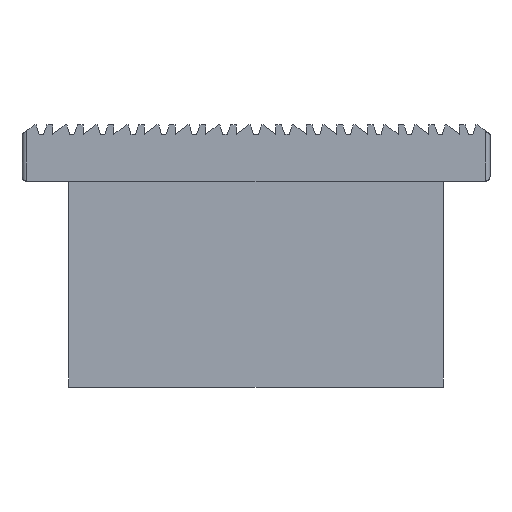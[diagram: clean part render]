
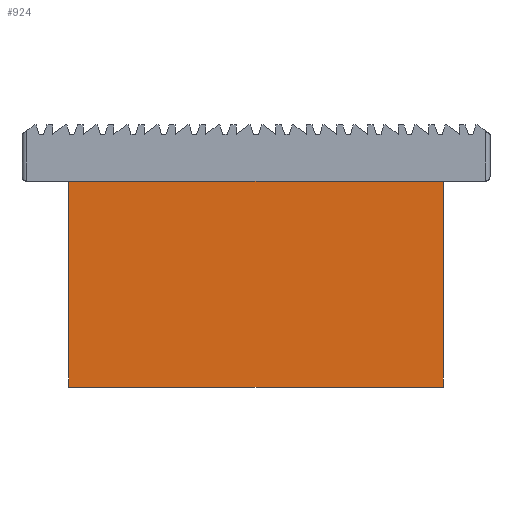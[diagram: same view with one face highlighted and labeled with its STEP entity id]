
A CAD part, front view. The second image highlights one B-rep face of the part: STEP entity #924.
In plain terms, the highlighted planar face has unit normal (0, -1, 0).
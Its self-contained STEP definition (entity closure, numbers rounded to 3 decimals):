
#846 = EDGE_CURVE( '', #1234, #1358, #2329, .T. );
#924 = ADVANCED_FACE( '', ( #2417 ), #2418, .F. );
#968 = EDGE_CURVE( '', #1758, #2156, #2464, .T. );
#1146 = EDGE_CURVE( '', #2156, #1234, #2655, .T. );
#1234 = VERTEX_POINT( '', #2754 );
#1358 = VERTEX_POINT( '', #2893 );
#1370 = EDGE_CURVE( '', #1358, #1758, #2907, .T. );
#1758 = VERTEX_POINT( '', #3326 );
#2156 = VERTEX_POINT( '', #3754 );
#2329 = LINE( '', #3960, #3961 );
#2417 = FACE_OUTER_BOUND( '', #4084, .T. );
#2418 = PLANE( '', #4085 );
#2464 = LINE( '', #4159, #4160 );
#2655 = LINE( '', #4436, #4437 );
#2754 = CARTESIAN_POINT( '', ( -4., -5., 22. ) );
#2893 = CARTESIAN_POINT( '', ( 36., -5., 22. ) );
#2907 = LINE( '', #4782, #4783 );
#3326 = CARTESIAN_POINT( '', ( 36., -5., 0. ) );
#3754 = CARTESIAN_POINT( '', ( -4., -5., 0. ) );
#3960 = CARTESIAN_POINT( '', ( 0., -5., 22. ) );
#3961 = VECTOR( '', #6201, 1. );
#4084 = EDGE_LOOP( '', ( #6302, #6303, #6304, #6305 ) );
#4085 = AXIS2_PLACEMENT_3D( '', #6306, #6307, #6308 );
#4159 = CARTESIAN_POINT( '', ( 36., -5., 0. ) );
#4160 = VECTOR( '', #6445, 1. );
#4436 = CARTESIAN_POINT( '', ( -4., -5., 0. ) );
#4437 = VECTOR( '', #6597, 1. );
#4782 = CARTESIAN_POINT( '', ( 36., -5., 22. ) );
#4783 = VECTOR( '', #6854, 1. );
#6201 = DIRECTION( '', ( 1., 0., 0. ) );
#6302 = ORIENTED_EDGE( '', *, *, #846, .F. );
#6303 = ORIENTED_EDGE( '', *, *, #1146, .F. );
#6304 = ORIENTED_EDGE( '', *, *, #968, .F. );
#6305 = ORIENTED_EDGE( '', *, *, #1370, .F. );
#6306 = CARTESIAN_POINT( '', ( 0., -5., 0. ) );
#6307 = DIRECTION( '', ( 0., 1., 0. ) );
#6308 = DIRECTION( '', ( 0., 0., 1. ) );
#6445 = DIRECTION( '', ( -1., 0., 0. ) );
#6597 = DIRECTION( '', ( 0., 0., 1. ) );
#6854 = DIRECTION( '', ( 0., 0., -1. ) );
